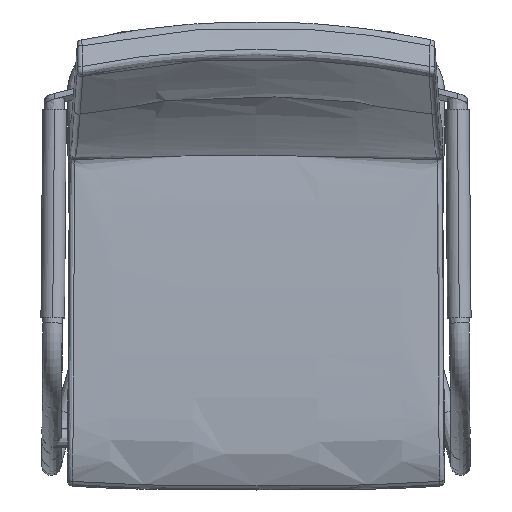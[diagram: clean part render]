
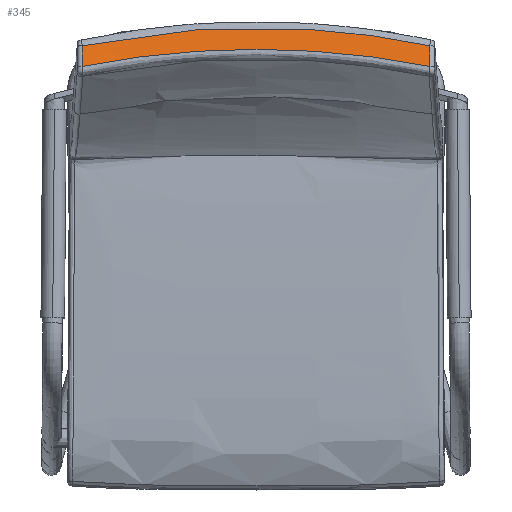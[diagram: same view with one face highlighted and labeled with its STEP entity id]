
A CAD part, top view. The second image highlights one B-rep face of the part: STEP entity #345.
In plain terms, the highlighted free-form (B-spline) face has degree [3, 1] with [12, 2] control points.
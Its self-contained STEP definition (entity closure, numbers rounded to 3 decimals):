
#22=B_SPLINE_SURFACE_WITH_KNOTS('',3,1,((#6336,#6337),(#6338,#6339),(#6340,
#6341),(#6342,#6343),(#6344,#6345),(#6346,#6347),(#6348,#6349),(#6350,#6351),
(#6352,#6353),(#6354,#6355),(#6356,#6357),(#6358,#6359)),.UNSPECIFIED.,
 .F.,.F.,.F.,(4,1,1,1,1,1,1,1,1,4),(2,2),(-468.78,-390.65,
-312.52,-312.52,-234.39,-234.39,-156.26,
-156.26,-78.13,0.),(0.,1.),.UNSPECIFIED.);
#125=B_SPLINE_CURVE_WITH_KNOTS('',3,(#9508,#9509,#9510,#9511,#9512),
 .UNSPECIFIED.,.F.,.F.,(4,1,4),(8.308,231.101,453.895),
 .UNSPECIFIED.);
#126=B_SPLINE_CURVE_WITH_KNOTS('',3,(#9513,#9514,#9515,#9516,#9517),
 .UNSPECIFIED.,.F.,.F.,(4,1,4),(3.768,226.653,449.537),
 .UNSPECIFIED.);
#147=B_SPLINE_CURVE_WITH_KNOTS('',1,(#9854,#9855),.UNSPECIFIED.,.F.,.F.,
(2,2),(1.269,28.837),.UNSPECIFIED.);
#153=B_SPLINE_CURVE_WITH_KNOTS('',1,(#9878,#9879),.UNSPECIFIED.,.F.,.F.,
(2,2),(1.269,28.837),.UNSPECIFIED.);
#345=ADVANCED_FACE('',(#467),#22,.T.);
#467=FACE_OUTER_BOUND('',#589,.T.);
#589=EDGE_LOOP('',(#1018,#1019,#1020,#1021));
#1018=ORIENTED_EDGE('',*,*,#1334,.T.);
#1019=ORIENTED_EDGE('',*,*,#1313,.F.);
#1020=ORIENTED_EDGE('',*,*,#1340,.F.);
#1021=ORIENTED_EDGE('',*,*,#1312,.T.);
#1312=EDGE_CURVE('',#1640,#1638,#125,.T.);
#1313=EDGE_CURVE('',#1641,#1639,#126,.T.);
#1334=EDGE_CURVE('',#1638,#1639,#147,.T.);
#1340=EDGE_CURVE('',#1640,#1641,#153,.T.);
#1638=VERTEX_POINT('',#9426);
#1639=VERTEX_POINT('',#9427);
#1640=VERTEX_POINT('',#9428);
#1641=VERTEX_POINT('',#9429);
#6336=CARTESIAN_POINT('',(226.997,296.68,865.867));
#6337=CARTESIAN_POINT('',(227.056,250.774,879.888));
#6338=CARTESIAN_POINT('',(202.196,301.991,864.287));
#6339=CARTESIAN_POINT('',(202.249,256.029,878.119));
#6340=CARTESIAN_POINT('',(152.173,310.874,861.645));
#6341=CARTESIAN_POINT('',(152.213,264.818,875.161));
#6342=CARTESIAN_POINT('',(101.595,316.225,860.054));
#6343=CARTESIAN_POINT('',(101.622,270.113,873.379));
#6344=CARTESIAN_POINT('',(50.871,319.794,858.992));
#6345=CARTESIAN_POINT('',(50.884,273.645,872.19));
#6346=CARTESIAN_POINT('',(25.435,320.688,858.726));
#6347=CARTESIAN_POINT('',(25.442,274.529,871.893));
#6348=CARTESIAN_POINT('',(-25.435,320.688,858.726));
#6349=CARTESIAN_POINT('',(-25.442,274.529,871.893));
#6350=CARTESIAN_POINT('',(-50.869,319.794,858.992));
#6351=CARTESIAN_POINT('',(-50.883,273.645,872.19));
#6352=CARTESIAN_POINT('',(-101.593,316.225,860.053));
#6353=CARTESIAN_POINT('',(-101.62,270.113,873.379));
#6354=CARTESIAN_POINT('',(-152.17,310.874,861.645));
#6355=CARTESIAN_POINT('',(-152.211,264.818,875.161));
#6356=CARTESIAN_POINT('',(-202.195,301.991,864.287));
#6357=CARTESIAN_POINT('',(-202.248,256.029,878.119));
#6358=CARTESIAN_POINT('',(-226.997,296.68,865.867));
#6359=CARTESIAN_POINT('',(-227.056,250.774,879.888));
#9426=CARTESIAN_POINT('',(221.139,261.794,876.493));
#9427=CARTESIAN_POINT('',(221.131,288.167,868.466));
#9428=CARTESIAN_POINT('',(-221.139,261.794,876.493));
#9429=CARTESIAN_POINT('',(-221.131,288.167,868.466));
#9508=CARTESIAN_POINT('',(-221.139,261.794,876.493));
#9509=CARTESIAN_POINT('',(-148.472,276.285,871.725));
#9510=CARTESIAN_POINT('',(0.,290.886,866.893));
#9511=CARTESIAN_POINT('',(148.472,276.285,871.725));
#9512=CARTESIAN_POINT('',(221.139,261.794,876.493));
#9513=CARTESIAN_POINT('',(-221.131,288.167,868.466));
#9514=CARTESIAN_POINT('',(-148.562,303.388,863.814));
#9515=CARTESIAN_POINT('',(0.,318.758,859.123));
#9516=CARTESIAN_POINT('',(148.562,303.388,863.814));
#9517=CARTESIAN_POINT('',(221.131,288.167,868.466));
#9854=CARTESIAN_POINT('',(221.139,261.794,876.493));
#9855=CARTESIAN_POINT('',(221.131,288.167,868.466));
#9878=CARTESIAN_POINT('',(-221.139,261.794,876.493));
#9879=CARTESIAN_POINT('',(-221.131,288.167,868.466));
